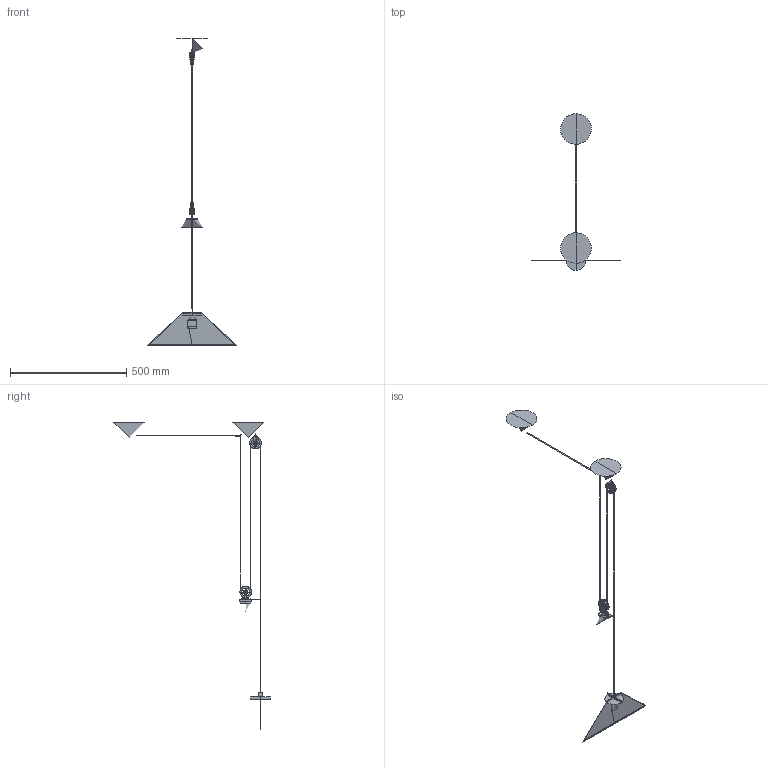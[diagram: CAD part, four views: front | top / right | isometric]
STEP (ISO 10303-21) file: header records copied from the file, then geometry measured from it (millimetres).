
FILE_DESCRIPTION(/* description */ (''),/* implementation_level */ '2;1');
FILE_NAME(/* name */ 'aggregato conico saliscendi decentrato d38',/* time_stamp */ '2016-05-16T10:20:02+02:00',/* author */ (''),/* organization */ (''),/* preprocessor_version */ 'ST-DEVELOPER v10',/* originating_system */ '',/* authorisation */ '');
FILE_SCHEMA (('CONFIG_CONTROL_DESIGN'));
Length unit declared in the file: millimetre
Products named in the file (6): 1; 2; 3; 4; 5; 6
Assembly tree (5 placements, depth 2):
  1
    2
    3
    4
    5
    6
Bounding box: 382 x 671.19 x 1323.61 mm (x, y, z)
Surface area: 538947.1 mm2 (no closed solid volume)
Topology: 0 solids, 154 shells, 164 faces, 668 edges, 645 vertices
Faces by surface type: bspline 91, plane 73
Entity records: 8904 total; most frequent: CARTESIAN_POINT 5215, ORIENTED_EDGE 637, EDGE_CURVE 617, VERTEX_POINT 598, B_SPLINE_CURVE_WITH_KNOTS 186, EDGE_LOOP 179, ADVANCED_FACE 164, FACE_OUTER_BOUND 164
